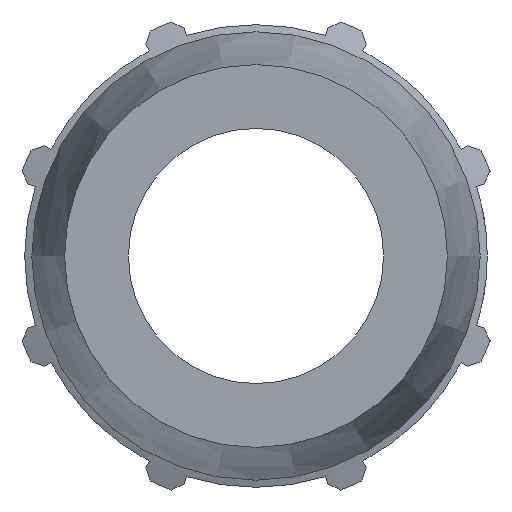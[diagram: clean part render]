
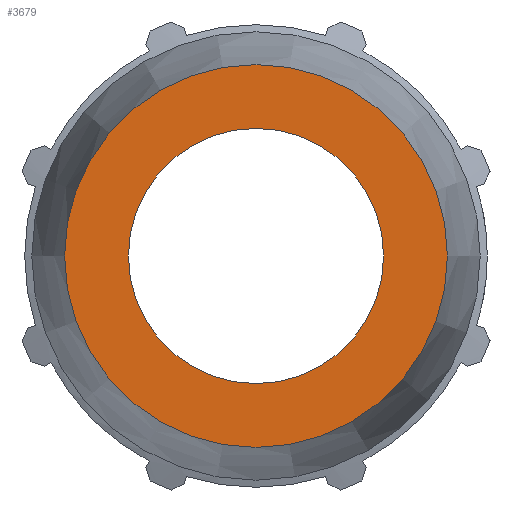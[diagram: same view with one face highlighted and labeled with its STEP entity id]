
A CAD part, left-side view. The second image highlights one B-rep face of the part: STEP entity #3679.
In plain terms, the highlighted planar face has unit normal (-1, 0, 0).
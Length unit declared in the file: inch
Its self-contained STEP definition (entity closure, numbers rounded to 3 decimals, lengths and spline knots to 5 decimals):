
#120=FACE_BOUND('',#521,.T.);
#176=PLANE('',#4005);
#315=FACE_OUTER_BOUND('',#520,.T.);
#520=EDGE_LOOP('',(#2900,#2901));
#521=EDGE_LOOP('',(#2902,#2903));
#755=CIRCLE('',#4003,1.24311);
#756=CIRCLE('',#4004,1.24311);
#757=CIRCLE('',#4006,0.82874);
#758=CIRCLE('',#4007,0.82874);
#1658=VERTEX_POINT('',#6042);
#1659=VERTEX_POINT('',#6043);
#1660=VERTEX_POINT('',#6048);
#1661=VERTEX_POINT('',#6049);
#2118=EDGE_CURVE('',#1658,#1659,#755,.T.);
#2120=EDGE_CURVE('',#1659,#1658,#756,.T.);
#2121=EDGE_CURVE('',#1660,#1661,#757,.T.);
#2122=EDGE_CURVE('',#1661,#1660,#758,.T.);
#2900=ORIENTED_EDGE('',*,*,#2118,.F.);
#2901=ORIENTED_EDGE('',*,*,#2120,.F.);
#2902=ORIENTED_EDGE('',*,*,#2121,.T.);
#2903=ORIENTED_EDGE('',*,*,#2122,.T.);
#3679=ADVANCED_FACE('',(#315,#120),#176,.F.);
#4003=AXIS2_PLACEMENT_3D('',#6044,#4720,#4721);
#4004=AXIS2_PLACEMENT_3D('',#6046,#4723,#4724);
#4005=AXIS2_PLACEMENT_3D('',#6047,#4725,#4726);
#4006=AXIS2_PLACEMENT_3D('',#6050,#4727,#4728);
#4007=AXIS2_PLACEMENT_3D('',#6051,#4729,#4730);
#4720=DIRECTION('center_axis',(1.,0.,0.));
#4721=DIRECTION('ref_axis',(0.,0.,-1.));
#4723=DIRECTION('center_axis',(1.,0.,0.));
#4724=DIRECTION('ref_axis',(0.,0.,-1.));
#4725=DIRECTION('center_axis',(1.,0.,0.));
#4726=DIRECTION('ref_axis',(0.,0.,-1.));
#4727=DIRECTION('center_axis',(1.,0.,0.));
#4728=DIRECTION('ref_axis',(0.,0.,-1.));
#4729=DIRECTION('center_axis',(1.,0.,0.));
#4730=DIRECTION('ref_axis',(0.,0.,-1.));
#6042=CARTESIAN_POINT('',(-4.23,1.24311,0.));
#6043=CARTESIAN_POINT('',(-4.23,-1.24311,0.));
#6044=CARTESIAN_POINT('Origin',(-4.23,0.,0.));
#6046=CARTESIAN_POINT('Origin',(-4.23,0.,0.));
#6047=CARTESIAN_POINT('Origin',(-4.23,0.82874,0.));
#6048=CARTESIAN_POINT('',(-4.23,0.82874,0.));
#6049=CARTESIAN_POINT('',(-4.23,-0.82874,0.));
#6050=CARTESIAN_POINT('Origin',(-4.23,0.,0.));
#6051=CARTESIAN_POINT('Origin',(-4.23,0.,0.));
